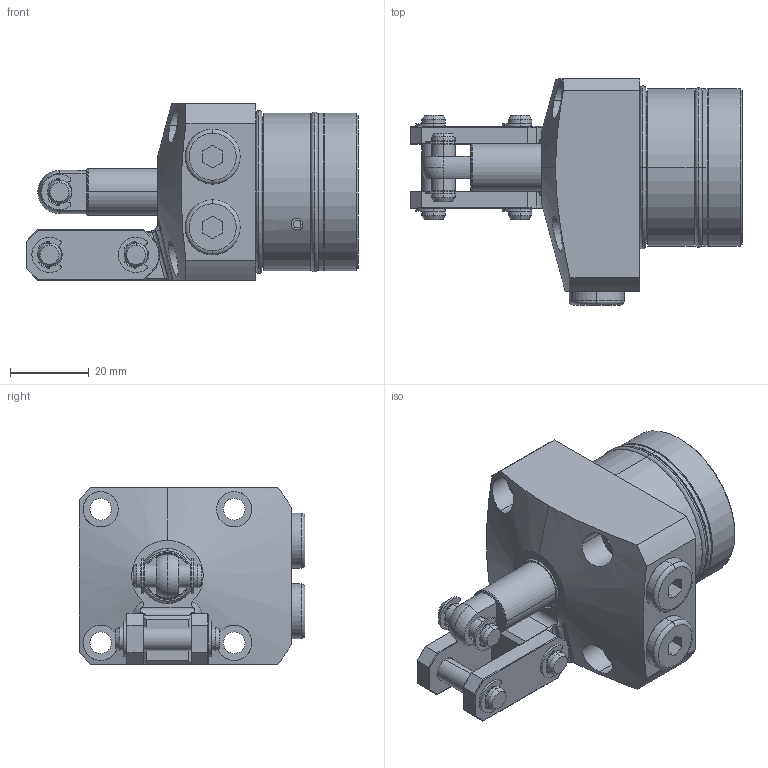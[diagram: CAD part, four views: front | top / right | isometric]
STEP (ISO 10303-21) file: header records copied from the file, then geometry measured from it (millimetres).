
FILE_DESCRIPTION(/* description */ (''),/* implementation_level */ '2;1');
FILE_NAME(/* name */ 'KTPW40-LJ.stp',/* time_stamp */ '2022-11-20T07:38:08+08:00',/* author */ (''),/* organization */ (''),/* preprocessor_version */ 'ST-DEVELOPER v16.7',/* originating_system */ 'SIEMENS PLM Software NX 12.0',/* authorisation */ '');
FILE_SCHEMA (('AP203_CONFIGURATION_CONTROLLED_3D_DESIGN_OF_MECHANICAL_PARTS_AND_ASSEMBLIES_MIM_LF { 1 0 10303 403 2 1 2}'));
Length unit declared in the file: millimetre
Products named in the file (10): KTPW40-LJ-03; KTPW40-LJ-05; KTPW40-LJ-08; KTPW40-LJ-01; KTPW40-LJ-06; KTPW40-LJ-04; KTPW40-LJ-07; KTPW40-LJ-010; KTPW40-LJ-02; LKW0401-CLJ_step
Assembly tree (18 placements, depth 2):
  LKW0401-CLJ_step
    KTPW40-LJ-02
    KTPW40-LJ-010  x2
    KTPW40-LJ-07  x6
    KTPW40-LJ-04  x2
    KTPW40-LJ-06
    KTPW40-LJ-01
    KTPW40-LJ-08  x2
    KTPW40-LJ-05  x2
    KTPW40-LJ-03
Bounding box: 84.5 x 57.5 x 45 mm (x, y, z)
Volume: 90756.7 mm3; surface area: 27714.4 mm2
Topology: 20 solids, 20 shells, 633 faces, 1469 edges, 909 vertices
Faces by surface type: cylinder 252, plane 190, torus 106, cone 75, bspline 8, sphere 2
Full cylindrical faces by diameter (mm): 40 x1
Entity records: 12168 total; most frequent: CARTESIAN_POINT 2721, DIRECTION 1860, ORIENTED_EDGE 1548, AXIS2_PLACEMENT_3D 781, EDGE_CURVE 774, VERTEX_POINT 470, CIRCLE 417, EDGE_LOOP 402
